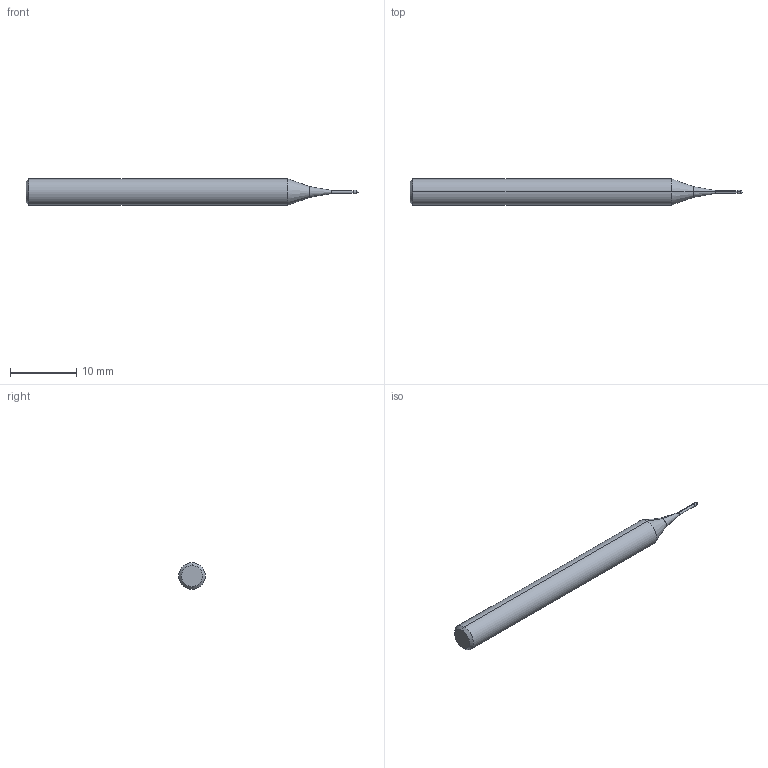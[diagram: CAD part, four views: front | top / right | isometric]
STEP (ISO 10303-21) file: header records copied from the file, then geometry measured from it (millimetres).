
FILE_DESCRIPTION (( 'STEP AP214' ), '1' );
FILE_NAME ('G9B81901.STEP', '2018-07-02T00:55:31', ( 'USER' ), ( '' ), 'SwSTEP 2.0', 'SolidWorks 2014', '' );
FILE_SCHEMA (( 'AUTOMOTIVE_DESIGN' ));
Length unit declared in the file: millimetre
Products named in the file (1): G9B81901
Bounding box: 50 x 4 x 4 mm (x, y, z)
Volume: 519.4 mm3; surface area: 552.4 mm2
Topology: 2 solids, 2 shells, 17 faces, 34 edges, 19 vertices
Faces by surface type: cylinder 6, cone 6, plane 3, sphere 2
Entity records: 473 total; most frequent: DIRECTION 88, CARTESIAN_POINT 69, ORIENTED_EDGE 64, AXIS2_PLACEMENT_3D 38, EDGE_CURVE 32, CIRCLE 20, VERTEX_POINT 19, ADVANCED_FACE 17
